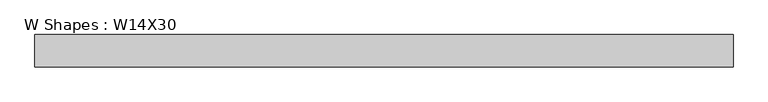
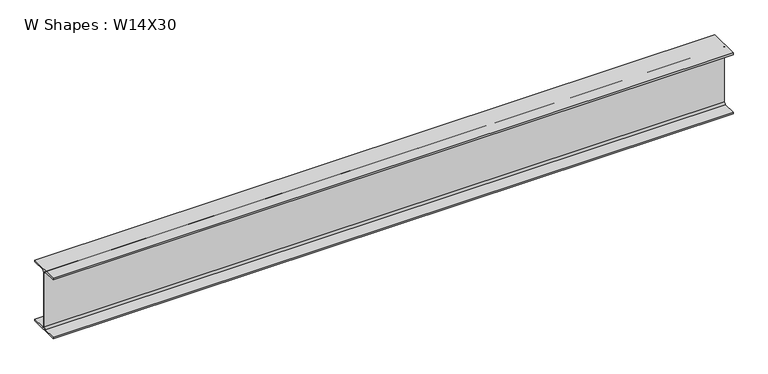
"""IFC4 building model written with IfcOpenShell, lengths in millimetres: beam geometry, W Shapes : W14X30."""

from ifc_helpers import new_model, si_unit, point, frame, frame_2d, origin, place, context, project, spatial, polyline, circle_curve, trimmed, segment, composite_curve, outline, extrude, source, transform, mapped, element, save


def w_shapes_w14x30_7a86089d(model_context):
    return source(origin(), model_context, "Body", "SweptSolid", [
        extrude(outline(composite_curve([segment(polyline([(85.471, -165.481), (85.471, -175.26), (-85.471, -175.26), (-85.471, -165.481), (-13.589, -165.481)]), True, "CONTINUOUS"), segment(trimmed(circle_curve(frame_2d((-13.589, -155.321)), 10.16), [point((-13.589, -165.481))], [point((-3.429, -155.321))], True, "CARTESIAN"), True, "CONTINUOUS"), segment(polyline([(-3.429, -155.321), (-3.429, 155.321)]), True, "CONTINUOUS"), segment(trimmed(circle_curve(frame_2d((-13.589, 155.321)), 10.16), [point((-3.429, 155.321))], [point((-13.589, 165.481))], True, "CARTESIAN"), True, "CONTINUOUS"), segment(polyline([(-13.589, 165.481), (-85.471, 165.481), (-85.471, 175.26), (85.471, 175.26), (85.471, 165.481), (13.589, 165.481)]), True, "CONTINUOUS"), segment(trimmed(circle_curve(frame_2d((13.589, 155.321)), 10.16), [point((13.589, 165.481))], [point((3.429, 155.321))], True, "CARTESIAN"), True, "CONTINUOUS"), segment(polyline([(3.429, 155.321), (3.429, -155.321)]), True, "CONTINUOUS"), segment(trimmed(circle_curve(frame_2d((13.589, -155.321)), 10.16), [point((3.429, -155.321))], [point((13.589, -165.481))], True, "CARTESIAN"), True, "CONTINUOUS"), segment(polyline([(13.589, -165.481), (85.471, -165.481)]), True, "CONTINUOUS")], self_intersect=False)), frame((-1863.3023799, 0.0, 0.0), z_axis=(1.0, 0.0, 0.0), x_axis=(0.0, 1.0, 0.0)), (0.0, 0.0, 1.0), 3704.1125626),
    ])


if __name__ == "__main__":
    model = new_model("IFC4")
    model_context = context("Model", 3, world=origin())
    ifc_project = project(units=[si_unit("LENGTHUNIT", "METRE", prefix="MILLI")], contexts=[model_context])
    site = spatial("IfcSite", under=ifc_project)
    building = spatial("IfcBuilding", under=site)
    placement = place(None, origin())
    w_shapes_w14x30_shape = w_shapes_w14x30_7a86089d(model_context)
    element("IfcBeam", 1, ObjectType="W Shapes : W14X30", at=placement, inside=building, context=model_context, shape_type="MappedRepresentation", body=[
        mapped(w_shapes_w14x30_shape, transform((0.0, 0.0, 0.0), x_axis=(1.0, 0.0, 0.0), y_axis=(0.0, 1.0, 0.0), z_axis=(0.0, 0.0, 1.0))),
    ])
    save(model, "model.ifc")
